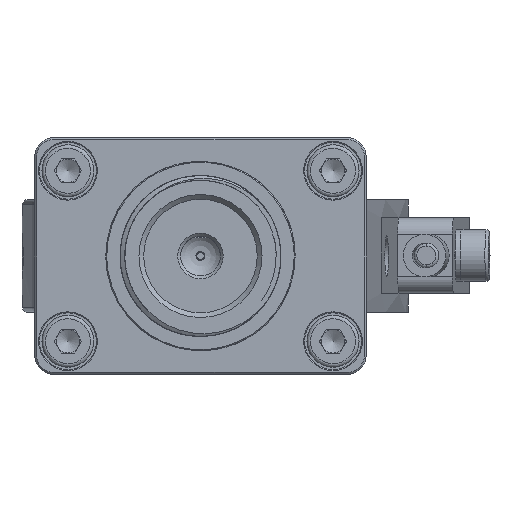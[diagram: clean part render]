
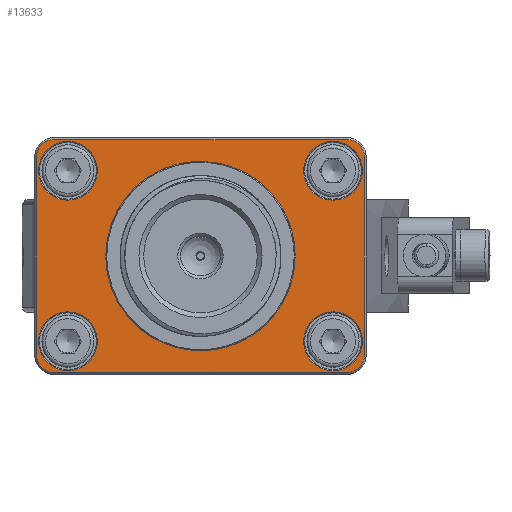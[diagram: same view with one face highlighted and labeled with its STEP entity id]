
A CAD part, front view. The second image highlights one B-rep face of the part: STEP entity #13633.
In plain terms, the highlighted planar face has unit normal (0, -1, 0).
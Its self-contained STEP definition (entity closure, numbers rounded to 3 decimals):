
#9665=LINE('',#49245,#11484);
#9666=LINE('',#49250,#11485);
#9667=LINE('',#49254,#11486);
#9668=LINE('',#49258,#11487);
#11484=VECTOR('',#31674,1.);
#11485=VECTOR('',#31677,1.);
#11486=VECTOR('',#31680,1.);
#11487=VECTOR('',#31683,1.);
#11826=FACE_BOUND('',#16425,.T.);
#11827=FACE_BOUND('',#16426,.T.);
#11828=FACE_BOUND('',#16427,.T.);
#11829=FACE_BOUND('',#16428,.T.);
#11830=FACE_BOUND('',#16429,.T.);
#11831=FACE_BOUND('',#16430,.T.);
#12594=CIRCLE('',#27177,3.1);
#12595=CIRCLE('',#27179,3.1);
#12596=CIRCLE('',#27181,3.1);
#12597=CIRCLE('',#27183,3.1);
#12598=CIRCLE('',#27185,10.);
#12599=CIRCLE('',#27187,1.8);
#12600=CIRCLE('',#27188,1.8);
#12601=CIRCLE('',#27189,1.8);
#12602=CIRCLE('',#27190,1.8);
#13633=ADVANCED_FACE('',(#11826,#11827,#11828,#11829,#11830,#11831),#14510,
 .T.);
#14510=PLANE('',#27191);
#16425=EDGE_LOOP('',(#21261));
#16426=EDGE_LOOP('',(#21262));
#16427=EDGE_LOOP('',(#21263));
#16428=EDGE_LOOP('',(#21264));
#16429=EDGE_LOOP('',(#21265));
#16430=EDGE_LOOP('',(#21266,#21267,#21268,#21269,#21270,#21271,#21272,#21273));
#21261=ORIENTED_EDGE('',*,*,#25736,.F.);
#21262=ORIENTED_EDGE('',*,*,#25735,.T.);
#21263=ORIENTED_EDGE('',*,*,#25734,.T.);
#21264=ORIENTED_EDGE('',*,*,#25733,.T.);
#21265=ORIENTED_EDGE('',*,*,#25732,.T.);
#21266=ORIENTED_EDGE('',*,*,#25737,.T.);
#21267=ORIENTED_EDGE('',*,*,#25738,.T.);
#21268=ORIENTED_EDGE('',*,*,#25739,.T.);
#21269=ORIENTED_EDGE('',*,*,#25740,.T.);
#21270=ORIENTED_EDGE('',*,*,#25741,.T.);
#21271=ORIENTED_EDGE('',*,*,#25742,.T.);
#21272=ORIENTED_EDGE('',*,*,#25743,.T.);
#21273=ORIENTED_EDGE('',*,*,#25744,.T.);
#23277=VERTEX_POINT('',#49231);
#23278=VERTEX_POINT('',#49234);
#23279=VERTEX_POINT('',#49237);
#23280=VERTEX_POINT('',#49240);
#23281=VERTEX_POINT('',#49243);
#23282=VERTEX_POINT('',#49246);
#23283=VERTEX_POINT('',#49247);
#23284=VERTEX_POINT('',#49249);
#23285=VERTEX_POINT('',#49251);
#23286=VERTEX_POINT('',#49253);
#23287=VERTEX_POINT('',#49255);
#23288=VERTEX_POINT('',#49257);
#23289=VERTEX_POINT('',#49259);
#25732=EDGE_CURVE('',#23277,#23277,#12594,.T.);
#25733=EDGE_CURVE('',#23278,#23278,#12595,.T.);
#25734=EDGE_CURVE('',#23279,#23279,#12596,.T.);
#25735=EDGE_CURVE('',#23280,#23280,#12597,.T.);
#25736=EDGE_CURVE('',#23281,#23281,#12598,.T.);
#25737=EDGE_CURVE('',#23282,#23283,#9665,.T.);
#25738=EDGE_CURVE('',#23283,#23284,#12599,.T.);
#25739=EDGE_CURVE('',#23284,#23285,#9666,.T.);
#25740=EDGE_CURVE('',#23285,#23286,#12600,.T.);
#25741=EDGE_CURVE('',#23286,#23287,#9667,.T.);
#25742=EDGE_CURVE('',#23287,#23288,#12601,.T.);
#25743=EDGE_CURVE('',#23288,#23289,#9668,.T.);
#25744=EDGE_CURVE('',#23289,#23282,#12602,.T.);
#27177=AXIS2_PLACEMENT_3D('',#49230,#31654,#31655);
#27179=AXIS2_PLACEMENT_3D('',#49233,#31658,#31659);
#27181=AXIS2_PLACEMENT_3D('',#49236,#31662,#31663);
#27183=AXIS2_PLACEMENT_3D('',#49239,#31666,#31667);
#27185=AXIS2_PLACEMENT_3D('',#49242,#31670,#31671);
#27187=AXIS2_PLACEMENT_3D('',#49248,#31675,#31676);
#27188=AXIS2_PLACEMENT_3D('',#49252,#31678,#31679);
#27189=AXIS2_PLACEMENT_3D('',#49256,#31681,#31682);
#27190=AXIS2_PLACEMENT_3D('',#49260,#31684,#31685);
#27191=AXIS2_PLACEMENT_3D('',#49261,#31686,#31687);
#31654=DIRECTION('',(0.,1.,0.));
#31655=DIRECTION('',(0.,0.,-1.));
#31658=DIRECTION('',(0.,1.,0.));
#31659=DIRECTION('',(0.,0.,-1.));
#31662=DIRECTION('',(0.,1.,0.));
#31663=DIRECTION('',(0.,0.,-1.));
#31666=DIRECTION('',(0.,1.,0.));
#31667=DIRECTION('',(0.,0.,-1.));
#31670=DIRECTION('',(0.,-1.,0.));
#31671=DIRECTION('',(0.,0.,1.));
#31674=DIRECTION('',(0.,0.,1.));
#31675=DIRECTION('',(0.,-1.,0.));
#31676=DIRECTION('',(0.,0.,1.));
#31677=DIRECTION('',(-1.,0.,0.));
#31678=DIRECTION('',(0.,-1.,0.));
#31679=DIRECTION('',(0.,0.,1.));
#31680=DIRECTION('',(0.,0.,-1.));
#31681=DIRECTION('',(0.,-1.,0.));
#31682=DIRECTION('',(0.,0.,1.));
#31683=DIRECTION('',(1.,0.,0.));
#31684=DIRECTION('',(0.,-1.,0.));
#31685=DIRECTION('',(0.,0.,1.));
#31686=DIRECTION('',(0.,-1.,0.));
#31687=DIRECTION('',(0.,0.,-1.));
#49230=CARTESIAN_POINT('',(-14.,-29.5,-21.5));
#49231=CARTESIAN_POINT('',(-14.,-29.5,-24.6));
#49233=CARTESIAN_POINT('',(-14.,-29.5,-3.5));
#49234=CARTESIAN_POINT('',(-14.,-29.5,-6.6));
#49236=CARTESIAN_POINT('',(14.,-29.5,-3.5));
#49237=CARTESIAN_POINT('',(14.,-29.5,-6.6));
#49239=CARTESIAN_POINT('',(14.,-29.5,-21.5));
#49240=CARTESIAN_POINT('',(14.,-29.5,-24.6));
#49242=CARTESIAN_POINT('',(0.,-29.5,-12.5));
#49243=CARTESIAN_POINT('',(0.,-29.5,-2.5));
#49245=CARTESIAN_POINT('',(17.3,-29.5,-21.5));
#49246=CARTESIAN_POINT('',(17.3,-29.5,-23.));
#49247=CARTESIAN_POINT('',(17.3,-29.5,-2.));
#49248=CARTESIAN_POINT('',(15.5,-29.5,-2.));
#49249=CARTESIAN_POINT('',(15.5,-29.5,-0.2));
#49250=CARTESIAN_POINT('',(-14.,-29.5,-0.2));
#49251=CARTESIAN_POINT('',(-15.5,-29.5,-0.2));
#49252=CARTESIAN_POINT('',(-15.5,-29.5,-2.));
#49253=CARTESIAN_POINT('',(-17.3,-29.5,-2.));
#49254=CARTESIAN_POINT('',(-17.3,-29.5,-21.5));
#49255=CARTESIAN_POINT('',(-17.3,-29.5,-23.));
#49256=CARTESIAN_POINT('',(-15.5,-29.5,-23.));
#49257=CARTESIAN_POINT('',(-15.5,-29.5,-24.8));
#49258=CARTESIAN_POINT('',(-14.,-29.5,-24.8));
#49259=CARTESIAN_POINT('',(15.5,-29.5,-24.8));
#49260=CARTESIAN_POINT('',(15.5,-29.5,-23.));
#49261=CARTESIAN_POINT('',(-14.,-29.5,-21.5));
